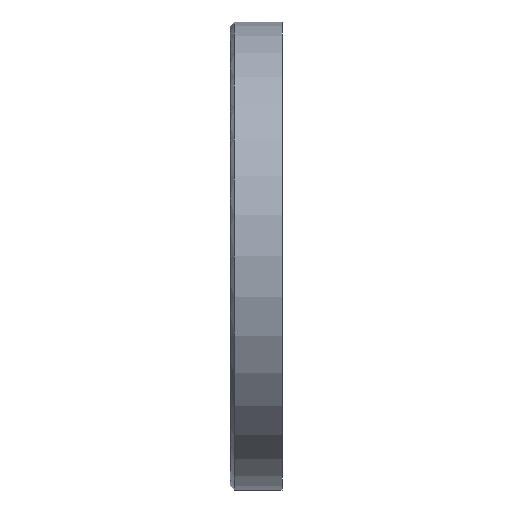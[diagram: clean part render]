
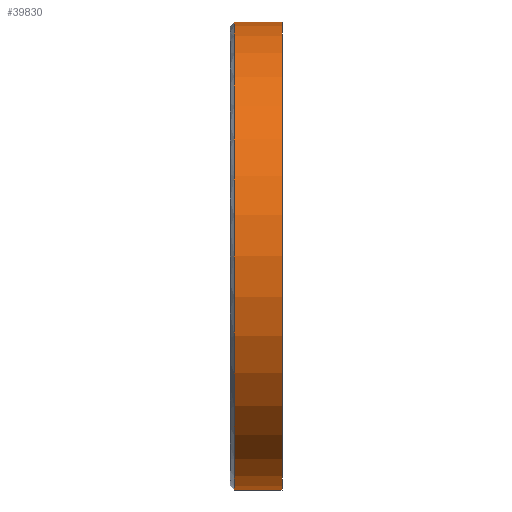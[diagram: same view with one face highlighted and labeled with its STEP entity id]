
A CAD part, left-side view. The second image highlights one B-rep face of the part: STEP entity #39830.
In plain terms, the highlighted cylindrical face has radius 34.29 mm (diameter 68.58 mm), a partial arc.
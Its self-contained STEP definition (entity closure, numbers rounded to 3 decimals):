
#366=CARTESIAN_POINT('',(1.75,3.85,-1.382));
#367=DIRECTION('',(0.,1.,0.));
#368=DIRECTION('',(0.,0.,-1.));
#369=AXIS2_PLACEMENT_3D('',#366,#367,#368);
#380=DIRECTION('',(0.,1.,0.));
#381=VECTOR('',#380,6.985);
#382=CARTESIAN_POINT('',(1.75,-3.135,-35.672));
#383=LINE('',#382,#381);
#384=DIRECTION('',(0.,1.,0.));
#385=VECTOR('',#384,6.985);
#386=CARTESIAN_POINT('',(1.75,-3.135,32.908));
#387=LINE('',#386,#385);
#388=CARTESIAN_POINT('',(1.75,-3.135,-1.382));
#389=DIRECTION('',(0.,-1.,0.));
#390=DIRECTION('',(0.,0.,1.));
#391=AXIS2_PLACEMENT_3D('',#388,#389,#390);
#36950=CARTESIAN_POINT('',(1.75,-3.135,
32.908));
#36951=CARTESIAN_POINT('',(1.75,3.85,32.908));
#36952=VERTEX_POINT('',#36950);
#36953=VERTEX_POINT('',#36951);
#37031=CARTESIAN_POINT('',(1.75,3.85,
-35.672));
#37032=VERTEX_POINT('',#37031);
#37033=CARTESIAN_POINT('',(1.75,-3.135,
-35.672));
#37034=VERTEX_POINT('',#37033);
#39818=CARTESIAN_POINT('',(1.75,4.485,
-1.382));
#39819=DIRECTION('',(0.,-1.,0.));
#39820=DIRECTION('',(0.,0.,-1.));
#39821=AXIS2_PLACEMENT_3D('',#39818,#39819,#39820);
#39822=CYLINDRICAL_SURFACE('',#39821,34.29);
#39823=ORIENTED_EDGE('',*,*,#39813,.F.);
#39825=ORIENTED_EDGE('',*,*,#39824,.T.);
#39826=ORIENTED_EDGE('',*,*,#39809,.T.);
#39827=ORIENTED_EDGE('',*,*,#39782,.T.);
#39828=EDGE_LOOP('',(#39823,#39825,#39826,#39827));
#39829=FACE_OUTER_BOUND('',#39828,.F.);
#39830=ADVANCED_FACE('',(#39829),#39822,.T.);
#370=CIRCLE('',#369,34.29);
#392=CIRCLE('',#391,34.29);
#39782=EDGE_CURVE('',#37032,#36953,#370,.T.);
#39809=EDGE_CURVE('',#37034,#37032,#383,.T.);
#39813=EDGE_CURVE('',#36952,#36953,#387,.T.);
#39824=EDGE_CURVE('',#36952,#37034,#392,.T.);
